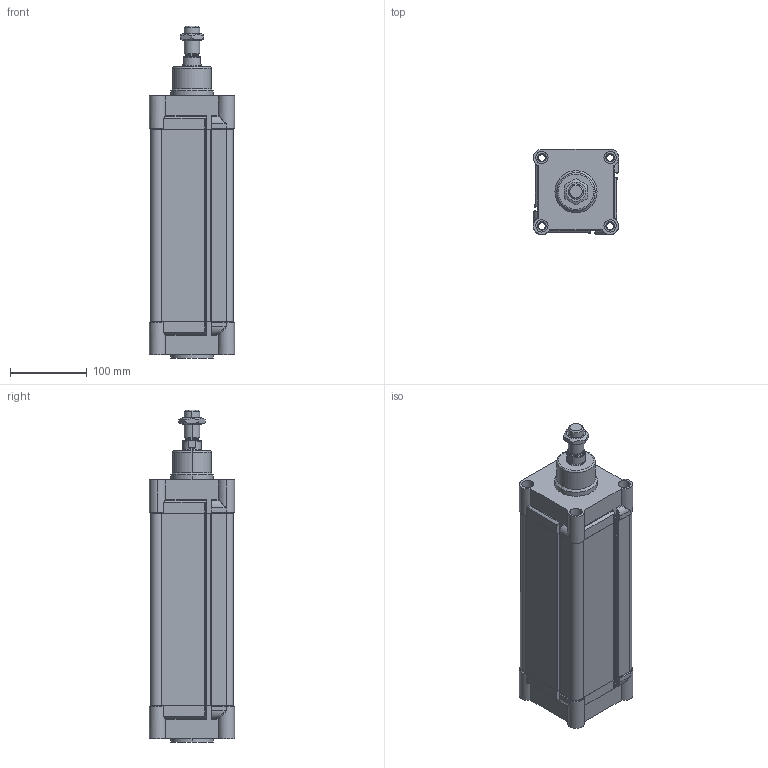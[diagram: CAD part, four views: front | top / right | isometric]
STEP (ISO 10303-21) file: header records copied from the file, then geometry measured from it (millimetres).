
FILE_DESCRIPTION (( 'STEP AP203' ), '1' );
FILE_NAME ('__XL-100-0200-050_Airtec.step', '2024-12-16T16:47:08', ( '' ), ( '' ), 'SwSTEP 2.0', 'SolidWorks 2014', '' );
FILE_SCHEMA (( 'CONFIG_CONTROL_DESIGN' ));
Length unit declared in the file: millimetre
Products named in the file (6): __XL-100-0200-050_Airtec; Nut_XL-100-000_Airtec_XL-100-000_Airtec; Cylinder_XL-100-000_Airtec_XL-100-000_Airtec; Accessory-2_XL-100-000_Airtec_XL-100-000_Airtec; Accessory-1_XL-100-000_Airtec_XL-100-000_Airtec; Rod_XL-100-000_Airtec_XL-100-000_Airtec
Assembly tree (5 placements, depth 2):
  __XL-100-0200-050_Airtec
    Accessory-2_XL-100-000_Airtec_XL-100-000_Airtec
    Cylinder_XL-100-000_Airtec_XL-100-000_Airtec
    Accessory-1_XL-100-000_Airtec_XL-100-000_Airtec
    Rod_XL-100-000_Airtec_XL-100-000_Airtec
    Nut_XL-100-000_Airtec_XL-100-000_Airtec
Bounding box: 111 x 111 x 433 mm (x, y, z)
Volume: 3747220.6 mm3; surface area: 328396.9 mm2
Topology: 5 solids, 5 shells, 352 faces, 903 edges, 568 vertices
Faces by surface type: cylinder 176, plane 112, cone 34, bspline 14, sphere 12, torus 4
Entity records: 12880 total; most frequent: CARTESIAN_POINT 3646, DIRECTION 1835, ORIENTED_EDGE 1786, EDGE_CURVE 893, AXIS2_PLACEMENT_3D 694, VERTEX_POINT 568, VECTOR 447, LINE 447
